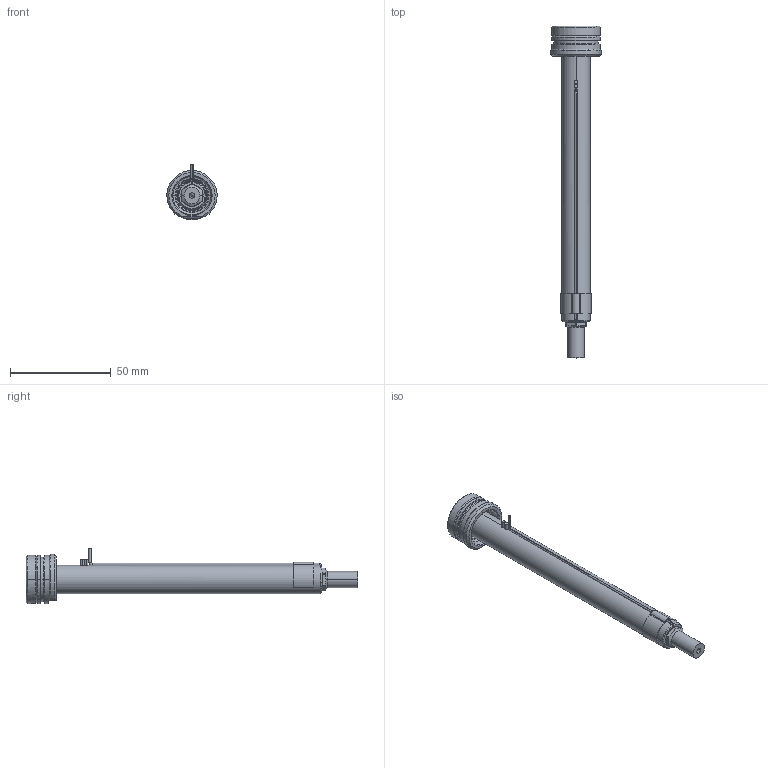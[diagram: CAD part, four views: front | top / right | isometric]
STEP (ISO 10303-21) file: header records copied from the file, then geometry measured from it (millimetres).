
FILE_DESCRIPTION((''),'2;1');
FILE_NAME('EO04_PG-FBE_WR_140_SW','2024-02-19T11:48:47',('sundharh'),(''),'CREO PARAMETRIC BY PTC INC, 2023154','CREO PARAMETRIC BY PTC INC, 2023154','');
FILE_SCHEMA(('CONFIG_CONTROL_DESIGN'));
Length unit declared in the file: millimetre
Products named in the file (1): EO04_PG-FBE_WR_140_SW
Bounding box: 24.99 x 165 x 27.5 mm (x, y, z)
Volume: 25596.5 mm3; surface area: 12589.9 mm2
Topology: 2 solids, 2 shells, 224 faces, 603 edges, 367 vertices
Faces by surface type: cylinder 84, plane 58, cone 46, torus 22, bspline 11, sphere 3
Entity records: 8347 total; most frequent: CARTESIAN_POINT 2698, DIRECTION 1227, ORIENTED_EDGE 1186, EDGE_CURVE 593, AXIS2_PLACEMENT_3D 514, VERTEX_POINT 367, CIRCLE 301, EDGE_LOOP 240
